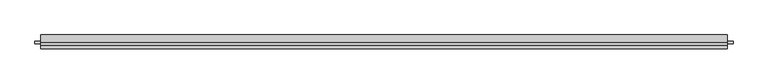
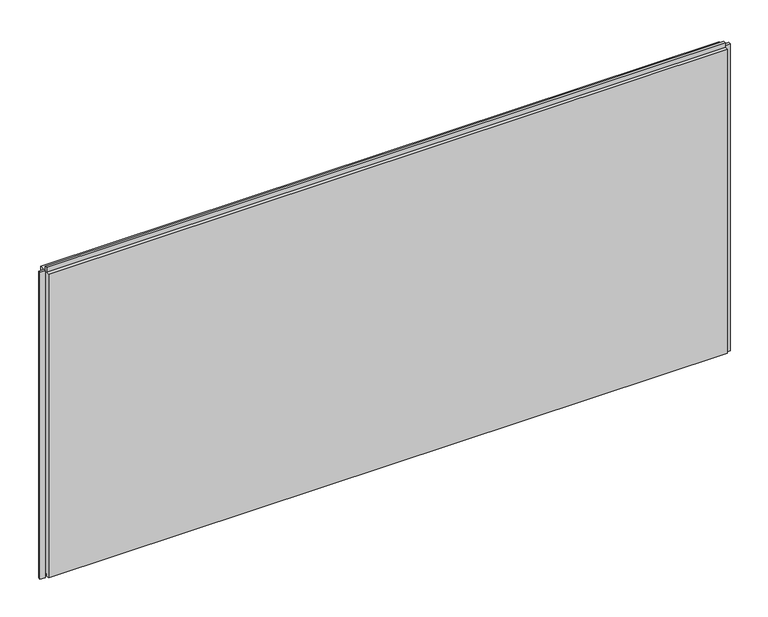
"""IFC4 building model written with IfcOpenShell, lengths in millimetres: plate geometry, Trimo_Qbiss Screen_Normal Panel-HORIZONTAL : HR - FB."""

from ifc_helpers import new_model, si_unit, frame, origin, place, context, project, spatial, polyline, outline, extrude, source, transform, mapped, element, save


def plate_42f9c4d8(model_context):
    return source(origin(), model_context, "Body", "SweptSolid", [
        extrude(outline(polyline([(-1276.0, 76.5978162), (-1276.0, 67.8978162), (-1295.0, 67.8978162), (-1295.0, 76.5978162), (-1276.0, 76.5978162)])), frame((0.0, 0.0, -1.0), z_axis=(0.0, 0.0, 1.0), x_axis=(1.0, 0.0, 0.0)), (0.0, 0.0, 1.0), 1200.0),
        extrude(outline(polyline([(1240.5, 67.8978162), (1240.5, 76.5978162), (1259.5, 76.5978162), (1259.5, 67.8978162), (1240.5, 67.8978162)])), frame((0.0, 0.0, -1.0), z_axis=(0.0, 0.0, 1.0), x_axis=(1.0, 0.0, 0.0)), (0.0, 0.0, 1.0), 1200.0),
        extrude(outline(polyline([(71.0, 1196.0), (100.0, 1196.0), (100.0, 0.0), (72.0, 0.0), (72.0, 15.5), (62.0, 15.5), (62.0, 7.0), (50.0, 7.0), (50.0, 1196.0), (63.0, 1196.0), (63.0, 1214.5), (71.0, 1214.5), (71.0, 1196.0)])), frame((-1273.0, 0.0, 0.0), z_axis=(1.0, 0.0, 0.0), x_axis=(0.0, 1.0, 0.0)), (0.0, 0.0, 1.0), 2510.5),
    ])


if __name__ == "__main__":
    model = new_model("IFC4")
    model_context = context("Model", 3, world=origin())
    ifc_project = project(units=[si_unit("LENGTHUNIT", "METRE", prefix="MILLI")], contexts=[model_context])
    site = spatial("IfcSite", under=ifc_project)
    building = spatial("IfcBuilding", under=site)
    placement = place(None, origin())
    plate_shape = plate_42f9c4d8(model_context)
    element("IfcPlate", 1, ObjectType="Trimo_Qbiss Screen_Normal Panel-HORIZONTAL : HR - FB", at=placement, inside=building, context=model_context, shape_type="MappedRepresentation", body=[
        mapped(plate_shape, transform((0.0, 0.0, 0.0), x_axis=(1.0, 0.0, 0.0), y_axis=(0.0, 1.0, 0.0), z_axis=(0.0, 0.0, 1.0))),
    ])
    save(model, "model.ifc")
